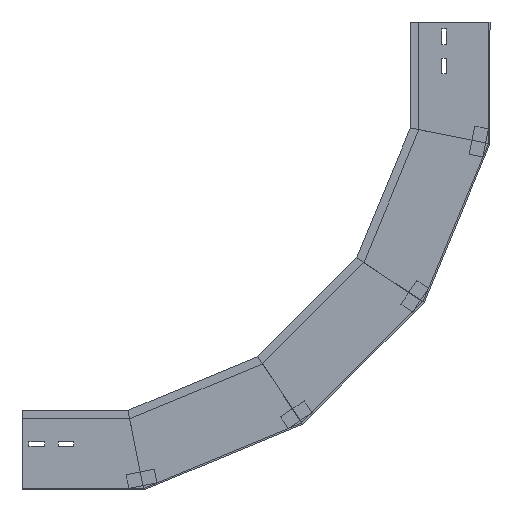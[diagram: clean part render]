
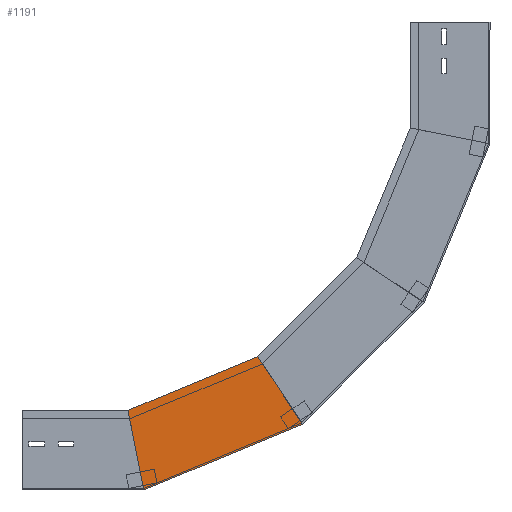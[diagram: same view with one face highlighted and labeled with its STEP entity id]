
A CAD part, left-side view. The second image highlights one B-rep face of the part: STEP entity #1191.
In plain terms, the highlighted planar face has unit normal (-1, 0, 0) as drawn and (1, 0, 0) by its records, which use the part's own axes.
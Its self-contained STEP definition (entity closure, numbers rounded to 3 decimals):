
#12 = LINE ( 'NONE', #33, #298 ) ;
#22 = AXIS2_PLACEMENT_3D ( 'NONE', #35, #1464, #629 ) ;
#33 = CARTESIAN_POINT ( 'NONE',  ( 0., 32.93, -165.55 ) ) ;
#35 = CARTESIAN_POINT ( 'NONE',  ( 0., 0., -172.1 ) ) ;
#40 = CARTESIAN_POINT ( 'NONE',  ( 0., 188.403, -332.969 ) ) ;
#85 = VERTEX_POINT ( 'NONE', #40 ) ;
#146 = EDGE_CURVE ( 'NONE', #844, #1013, #338, .T. ) ;
#153 = CARTESIAN_POINT ( 'NONE',  ( 0., 0., -172.1 ) ) ;
#163 = CARTESIAN_POINT ( 'NONE',  ( 0., 112.5, -149.722 ) ) ;
#167 = ORIENTED_EDGE ( 'NONE', *, *, #1751, .T. ) ;
#186 = DIRECTION ( 'NONE',  ( 0., 0.383, -0.924 ) ) ;
#260 = CARTESIAN_POINT ( 'NONE',  ( 0., 132.464, -370.346 ) ) ;
#298 = VECTOR ( 'NONE', #1484, 1000. ) ;
#321 = VERTEX_POINT ( 'NONE', #163 ) ;
#338 = LINE ( 'NONE', #917, #968 ) ;
#391 = VECTOR ( 'NONE', #1151, 1000. ) ;
#571 = ORIENTED_EDGE ( 'NONE', *, *, #752, .F. ) ;
#629 = DIRECTION ( 'NONE',  ( 0., 0., 1. ) ) ;
#719 = EDGE_CURVE ( 'NONE', #85, #1013, #1015, .T. ) ;
#752 = EDGE_CURVE ( 'NONE', #321, #85, #1135, .T. ) ;
#758 = VECTOR ( 'NONE', #1267, 1000. ) ;
#789 = CARTESIAN_POINT ( 'NONE',  ( 0., 93.03, -396.695 ) ) ;
#812 = ORIENTED_EDGE ( 'NONE', *, *, #719, .F. ) ;
#844 = VERTEX_POINT ( 'NONE', #153 ) ;
#917 = CARTESIAN_POINT ( 'NONE',  ( 0., 0., -172.1 ) ) ;
#968 = VECTOR ( 'NONE', #186, 1000. ) ;
#996 = CARTESIAN_POINT ( 'NONE',  ( 0., 103.936, -129.048 ) ) ;
#1013 = VERTEX_POINT ( 'NONE', #789 ) ;
#1015 = LINE ( 'NONE', #260, #758 ) ;
#1035 = FACE_OUTER_BOUND ( 'NONE', #1209, .T. ) ;
#1043 = PLANE ( 'NONE',  #22 ) ;
#1135 = LINE ( 'NONE', #996, #391 ) ;
#1151 = DIRECTION ( 'NONE',  ( 0., 0.383, -0.924 ) ) ;
#1191 = ADVANCED_FACE ( 'NONE', ( #1035 ), #1043, .F. ) ;
#1209 = EDGE_LOOP ( 'NONE', ( #571, #167, #1522, #812 ) ) ;
#1267 = DIRECTION ( 'NONE',  ( 0., -0.831, -0.556 ) ) ;
#1464 = DIRECTION ( 'NONE',  ( -1., 0., 0. ) ) ;
#1484 = DIRECTION ( 'NONE',  ( 0., -0.981, -0.195 ) ) ;
#1522 = ORIENTED_EDGE ( 'NONE', *, *, #146, .T. ) ;
#1751 = EDGE_CURVE ( 'NONE', #321, #844, #12, .T. ) ;
